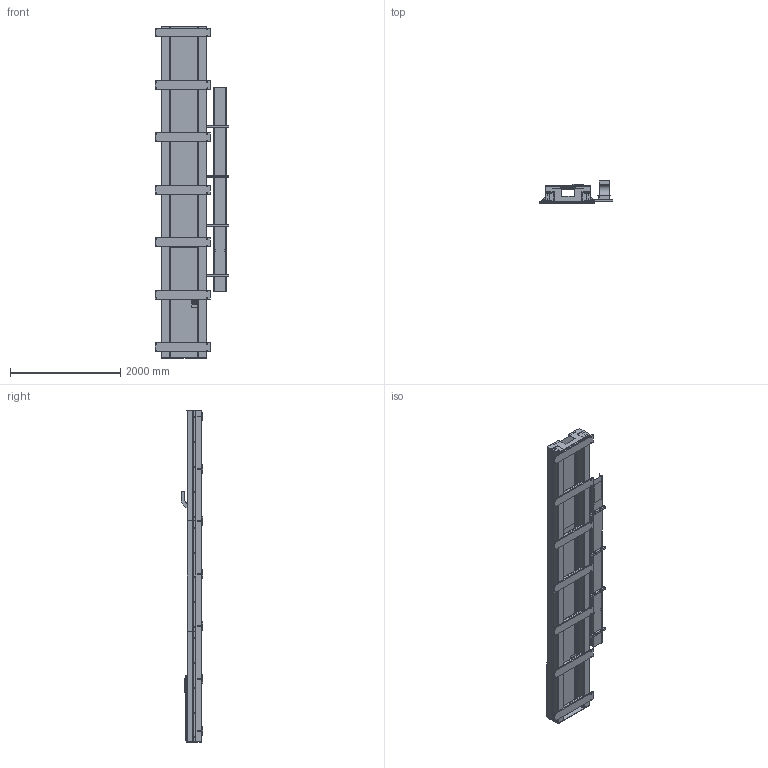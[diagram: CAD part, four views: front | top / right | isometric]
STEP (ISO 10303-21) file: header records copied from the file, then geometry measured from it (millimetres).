
FILE_DESCRIPTION (( 'STEP AP203' ), '1' );
FILE_NAME ('梓袧500kg迍蟈俋离唳.STEP', '2021-11-01T03:41:37', ( '' ), ( '' ), 'SwSTEP 2.0', 'SolidWorks 2018', '' );
FILE_SCHEMA (( 'CONFIG_CONTROL_DESIGN' ));
Length unit declared in the file: millimetre
Products named in the file (24): 奻醱泂啣22021-4-13-4-15-4-15; 6000-006謗耜誘欶12021-4-13-4-15-4-15; 謗耜源奪2021-4-13-4-15-4-15; 梓袧500kg迍蟈俋离唳; 訇喘M3X23酘唅192021-4-13-4-15-4-15_M3X23; 六米机器人地轨2021-4-13-4-15-4-15; 謗耜源奪B2021-4-13-4-15-4-15; 6000-003拊親蟈啣踐2021-4-13-4-15-4-15; HGH35_1^HGH35_ASM_2_ASM_HGH35CA(2)_HGH35CA2021-4-13-4-15-4-15; 笢潔源奪2021-4-13-4-15-4-15; 6000-006謗耜誘欶22021-4-13-4-15-4-15; 錨璃1; 萇儂假蚾啣12021-4-13-4-15-4-15; 托线方管2021-4-13-4-15-4-15_默认<按加工>; 錨璃82021-4-13-4-15-4-15; 地轨加强筋2021-4-13-4-15-4-15; JHY6050A-012A-0009-00防撞垫（聚氨酯）2021-4-13-4-15-4-15; 6000-008拊親蟈2021-4-13-4-15-4-15; 奻醱泂啣2021-4-13-4-15-4-15; 30.5筵砃賑輸菜詢輸2021-4-13-4-15-4-15; 階踡輸2021-4-13-4-15-4-15; 2譙誘欶2021-4-13-4-15-4-15; 6000-001菁釱2021-4-13-4-15-4-15; 立柱底板—带滑块安装孔方孔左侧2021-4-13-4-15-4-15
Assembly tree (70 placements, depth 4):
  梓袧500kg迍蟈俋离唳
    六米机器人地轨2021-4-13-4-15-4-15
      6000-001菁釱2021-4-13-4-15-4-15
        謗耜源奪2021-4-13-4-15-4-15
        謗耜源奪B2021-4-13-4-15-4-15
        笢潔源奪2021-4-13-4-15-4-15  x7
        錨璃82021-4-13-4-15-4-15  x7
        奻醱泂啣2021-4-13-4-15-4-15
        奻醱泂啣22021-4-13-4-15-4-15
        地轨加强筋2021-4-13-4-15-4-15  x14
        托线方管2021-4-13-4-15-4-15_默认<按加工>  x4
        6000-006謗耜誘欶12021-4-13-4-15-4-15
        6000-006謗耜誘欶22021-4-13-4-15-4-15
      2譙誘欶2021-4-13-4-15-4-15  x6
    30.5筵砃賑輸菜詢輸2021-4-13-4-15-4-15  x6
    HGH35_1^HGH35_ASM_2_ASM_HGH35CA(2)_HGH35CA2021-4-13-4-15-4-15  x6
    萇儂假蚾啣12021-4-13-4-15-4-15
    訇喘M3X23酘唅192021-4-13-4-15-4-15_M3X23
    立柱底板—带滑块安装孔方孔左侧2021-4-13-4-15-4-15
    6000-003拊親蟈啣踐2021-4-13-4-15-4-15
    6000-008拊親蟈2021-4-13-4-15-4-15
    階踡輸2021-4-13-4-15-4-15
    JHY6050A-012A-0009-00防撞垫（聚氨酯）2021-4-13-4-15-4-15  x3
    錨璃1  x3
Bounding box: 1330 x 392 x 6016 mm (x, y, z)
Volume: 193245730.4 mm3; surface area: 42758662.4 mm2
Topology: 74 solids, 74 shells, 2612 faces, 6923 edges, 4606 vertices
Faces by surface type: cylinder 1279, plane 1214, bspline 115, cone 4
Entity records: 434997 total; most frequent: CARTESIAN_POINT 399249, DIRECTION 6712, ORIENTED_EDGE 6632, EDGE_CURVE 3316, AXIS2_PLACEMENT_3D 2606, VERTEX_POINT 2208, EDGE_LOOP 1788, VECTOR 1500
